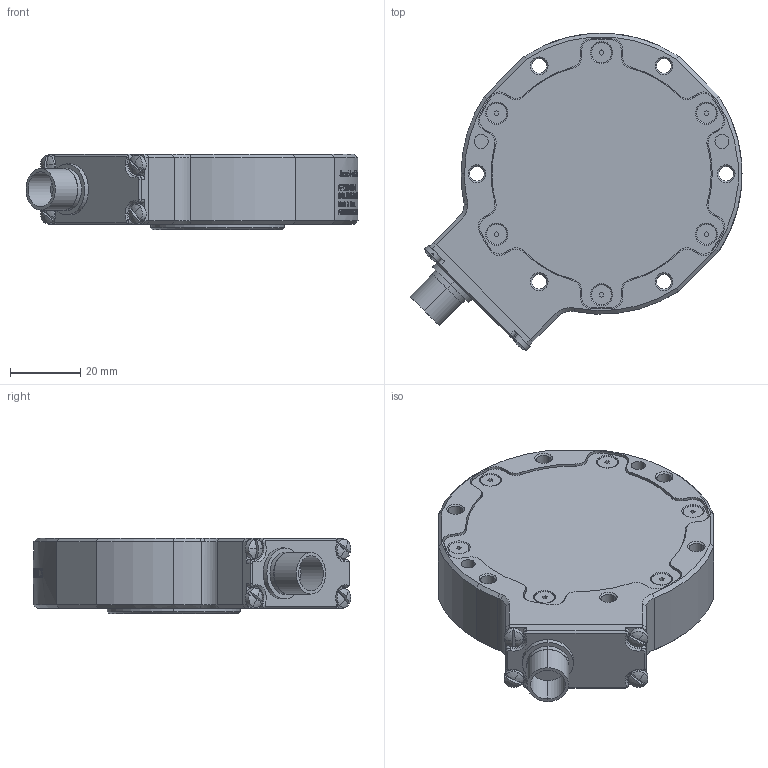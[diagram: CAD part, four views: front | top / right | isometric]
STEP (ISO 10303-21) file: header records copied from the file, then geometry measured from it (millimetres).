
FILE_DESCRIPTION (( 'STEP AP203' ), '1' );
FILE_NAME ('AFT200-D80-EN_寡ん辨.STEP', '2024-08-13T02:02:08', ( '' ), ( '' ), 'SwSTEP 2.0', 'SolidWorks 2021', '' );
FILE_SCHEMA (( 'CONFIG_CONTROL_DESIGN' ));
Length unit declared in the file: millimetre
Products named in the file (10): AFT200-D80-EN_寡ん辨; fillister head screw_ks_KS 1021 F - M3 x 10-N; AM21AA-AFT80-A102-3_頂睡瓣遴賅筐; SZ-3N; G40F1C-P09MCC0; FHB_M3_3; AM21AA-AFT80-A105-0_EN; AM21AA-AFT80-A103-3; socket head cap screw_ks_KS 1003 - M3 x 10 x 10-N; AM21AA-AFT80-A101-7_頂睡瓣遴賅筐
Assembly tree (30 placements, depth 2):
  AFT200-D80-EN_寡ん辨
    AM21AA-AFT80-A101-7_頂睡瓣遴賅筐
    AM21AA-AFT80-A103-3
    AM21AA-AFT80-A102-3_頂睡瓣遴賅筐
    FHB_M3_3  x13
    socket head cap screw_ks_KS 1003 - M3 x 10 x 10-N  x4
    SZ-3N  x4
    fillister head screw_ks_KS 1021 F - M3 x 10-N  x4
    AM21AA-AFT80-A105-0_EN
    G40F1C-P09MCC0
Bounding box: 94.55 x 90.37 x 21.5 mm (x, y, z)
Volume: 118161.5 mm3; surface area: 43960.2 mm2
Topology: 30 solids, 30 shells, 2641 faces, 6847 edges, 4441 vertices
Faces by surface type: bspline 934, plane 828, cylinder 630, cone 193, torus 40, sphere 16
Entity records: 155874 total; most frequent: CARTESIAN_POINT 105390, ORIENTED_EDGE 12014, DIRECTION 7137, EDGE_CURVE 6007, VERTEX_POINT 3952, B_SPLINE_CURVE_WITH_KNOTS 2843, AXIS2_PLACEMENT_3D 2752, EDGE_LOOP 2509
